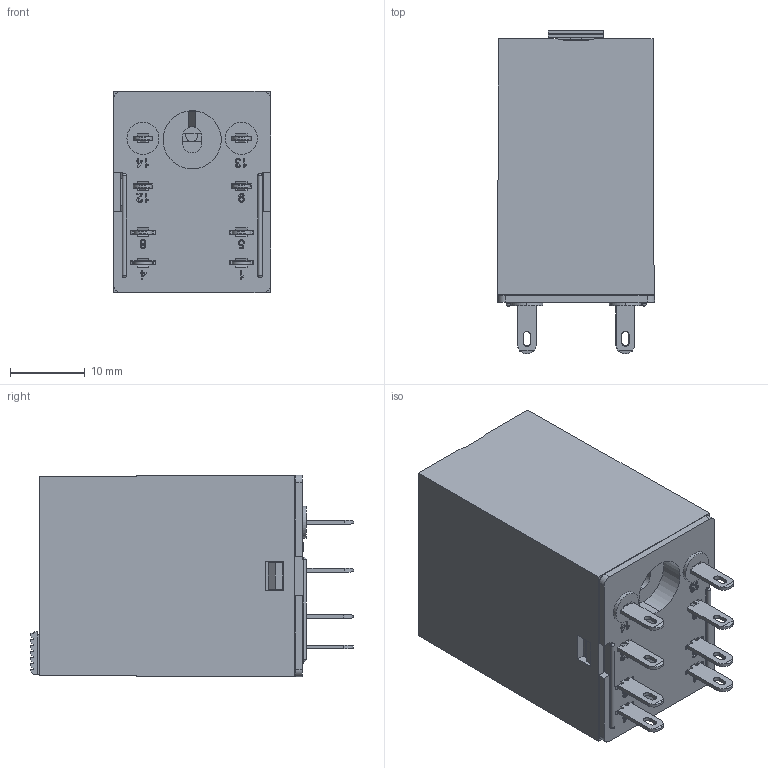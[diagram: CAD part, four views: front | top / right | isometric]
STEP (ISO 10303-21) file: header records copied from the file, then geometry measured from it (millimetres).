
FILE_DESCRIPTION (( 'STEP AP214' ), '1' );
FILE_NAME ('RKE2C DC軞蚾芞.STEP', '2019-04-26T05:56:54', ( 'L' ), ( 'Microsoft' ), 'SwSTEP 2.0', 'SolidWorks 2018', '' );
FILE_SCHEMA (( 'AUTOMOTIVE_DESIGN' ));
Length unit declared in the file: millimetre
Products named in the file (14): RKE DC坶諶俋褲郪磁 6.426.284.09; RKE 階裔(饜坶諶俋褲) 7.852.284.04SW; RKE 坶湔裝 8.337.284.03SW; RKE 坶諶俋褲7.800.284.03SW; KE2C 静接触组合（内插式）6.620.307.04SW; KE4C 引线片7.725.308.04SW; KF4C 引线片7.725.294.03 20140519; KE2C 噙揖萸7.732.307.02SW; KE2C 囀脣宒噙え(等え)7.725.307.02SW; KE2C 價釱7.810.307.01TY; 絳盄; KEdaoxian絳盄; KE2C 雄揖萸7.732.307.01SW; RKE2C DC軞蚾芞
Assembly tree (21 placements, depth 3):
  RKE2C DC軞蚾芞
    KE2C 雄揖萸7.732.307.01SW
    KEdaoxian絳盄
    絳盄
    KE2C 静接触组合（内插式）6.620.307.04SW
      KE2C 價釱7.810.307.01TY
      KE2C 囀脣宒噙え(等え)7.725.307.02SW  x4
      KE2C 噙揖萸7.732.307.02SW  x4
      KF4C 引线片7.725.294.03 20140519  x2
      KE4C 引线片7.725.308.04SW  x2
    RKE DC坶諶俋褲郪磁 6.426.284.09
      RKE 坶諶俋褲7.800.284.03SW
      RKE 坶湔裝 8.337.284.03SW
      RKE 階裔(饜坶諶俋褲) 7.852.284.04SW
Bounding box: 21.05 x 43.42 x 27 mm (x, y, z)
Volume: 6133.6 mm3; surface area: 12557.6 mm2
Topology: 23 solids, 23 shells, 1459 faces, 3863 edges, 2517 vertices
Faces by surface type: plane 954, cylinder 330, bspline 81, torus 52, cone 36, sphere 6
Entity records: 37996 total; most frequent: CARTESIAN_POINT 11247, ORIENTED_EDGE 5622, DIRECTION 5125, EDGE_CURVE 2811, LINE 2099, VECTOR 2099, VERTEX_POINT 1831, AXIS2_PLACEMENT_3D 1513
